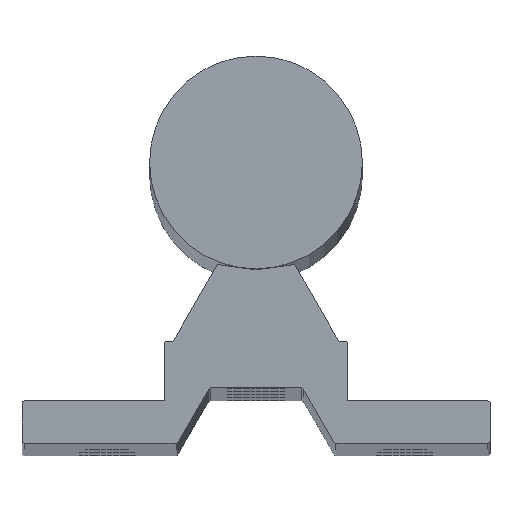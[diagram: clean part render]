
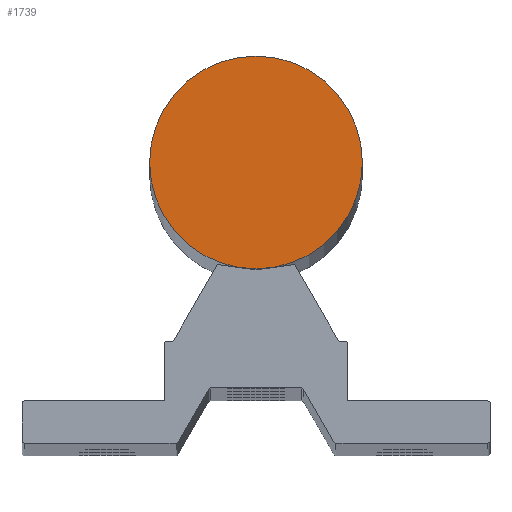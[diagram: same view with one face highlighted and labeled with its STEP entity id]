
A CAD part, top view. The second image highlights one B-rep face of the part: STEP entity #1739.
In plain terms, the highlighted planar face has unit normal (0, 0, 1).
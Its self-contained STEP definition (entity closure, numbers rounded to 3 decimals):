
#16 = AXIS2_PLACEMENT_3D ( 'NONE', #1736, #2423, #371 ) ;
#311 = AXIS2_PLACEMENT_3D ( 'NONE', #378, #558, #1065 ) ;
#371 = DIRECTION ( 'NONE',  ( 1., 0., 0. ) ) ;
#378 = CARTESIAN_POINT ( 'NONE',  ( 0., 0., 425. ) ) ;
#411 = CARTESIAN_POINT ( 'NONE',  ( -12.5, 0., 425. ) ) ;
#555 = ORIENTED_EDGE ( 'NONE', *, *, #630, .T. ) ;
#556 = CIRCLE ( 'NONE', #311, 12.5 ) ;
#558 = DIRECTION ( 'NONE',  ( 0., 0., 1. ) ) ;
#566 = CIRCLE ( 'NONE', #2618, 12.5 ) ;
#630 = EDGE_CURVE ( 'NONE', #2520, #1223, #566, .T. ) ;
#952 = CARTESIAN_POINT ( 'NONE',  ( 12.5, 0., 425. ) ) ;
#1065 = DIRECTION ( 'NONE',  ( 1., 0., 0. ) ) ;
#1223 = VERTEX_POINT ( 'NONE', #952 ) ;
#1479 = DIRECTION ( 'NONE',  ( 0., 0., 1. ) ) ;
#1730 = CARTESIAN_POINT ( 'NONE',  ( 0., 0., 425. ) ) ;
#1736 = CARTESIAN_POINT ( 'NONE',  ( 0., 0., 425. ) ) ;
#1739 = ADVANCED_FACE ( 'NONE', ( #1746 ), #2649, .T. ) ;
#1746 = FACE_OUTER_BOUND ( 'NONE', #2547, .T. ) ;
#2226 = ORIENTED_EDGE ( 'NONE', *, *, #2694, .T. ) ;
#2423 = DIRECTION ( 'NONE',  ( 0., 0., 1. ) ) ;
#2520 = VERTEX_POINT ( 'NONE', #411 ) ;
#2547 = EDGE_LOOP ( 'NONE', ( #555, #2226 ) ) ;
#2616 = DIRECTION ( 'NONE',  ( 1., 0., 0. ) ) ;
#2618 = AXIS2_PLACEMENT_3D ( 'NONE', #1730, #1479, #2616 ) ;
#2649 = PLANE ( 'NONE',  #16 ) ;
#2694 = EDGE_CURVE ( 'NONE', #1223, #2520, #556, .T. ) ;
